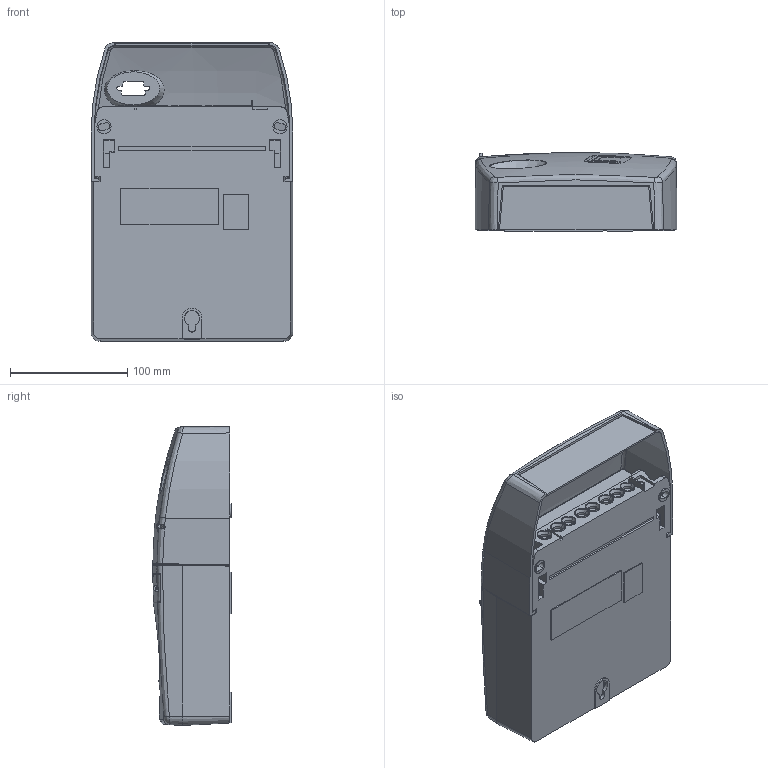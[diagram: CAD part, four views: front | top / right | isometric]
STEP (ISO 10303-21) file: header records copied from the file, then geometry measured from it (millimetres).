
FILE_DESCRIPTION((''),'2;1');
FILE_NAME('C_14604_PLASTICO_SW0001','2019-02-05T',('esors'),(''),'CREO PARAMETRIC BY PTC INC, 2015290','CREO PARAMETRIC BY PTC INC, 2015290','');
FILE_SCHEMA(('AUTOMOTIVE_DESIGN { 1 0 10303 214 1 1 1 1 }'));
Products named in the file (1): C_14604_PLASTICO_SW0001
Bounding box: 172 x 66.76 x 254.7 mm (x, y, z)
Volume: 1846303.7 mm3; surface area: 262485 mm2
Topology: 1 solids, 2 shells, 3822 faces, 10509 edges, 6876 vertices
Faces by surface type: plane 3008, cylinder 346, bspline 209, cone 158, torus 72, extrusion 18, sphere 11
Entity records: 143668 total; most frequent: CARTESIAN_POINT 47402, ORIENTED_EDGE 20986, DIRECTION 17183, EDGE_CURVE 10493, VECTOR 8093, LINE 8075, VERTEX_POINT 6876, AXIS2_PLACEMENT_3D 4545
